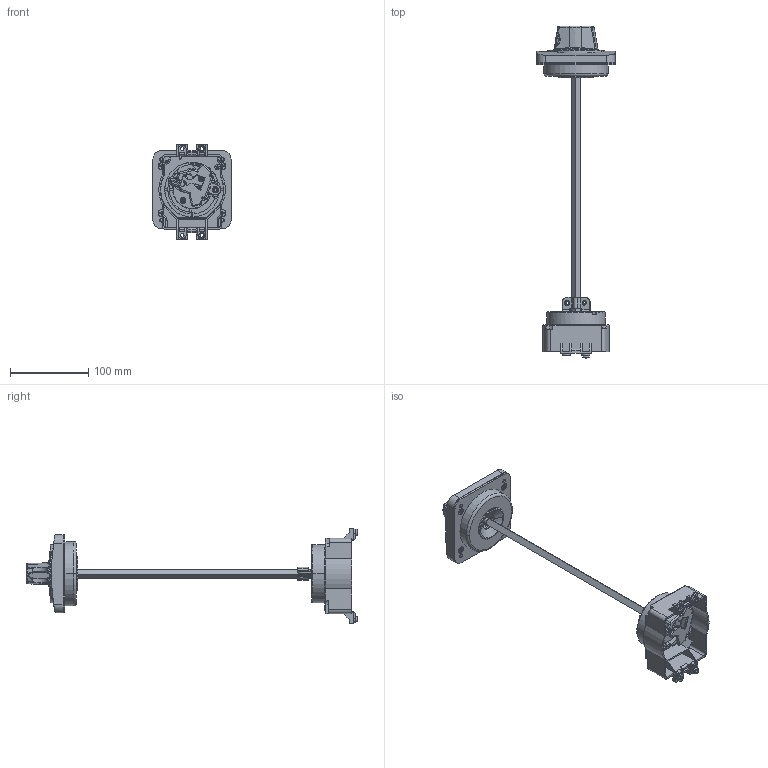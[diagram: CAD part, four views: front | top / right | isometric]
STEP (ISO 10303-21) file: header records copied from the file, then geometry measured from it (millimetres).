
FILE_DESCRIPTION((''),'2;1');
FILE_NAME('4818794000_ASM','2018-08-15T',('sesa105148'),('Schneider-Electric'),'PRO/ENGINEER BY PARAMETRIC TECHNOLOGY CORPORATION, 2015440','PRO/ENGINEER BY PARAMETRIC TECHNOLOGY CORPORATION, 2015440','');
FILE_SCHEMA(('CONFIG_CONTROL_DESIGN'));
Products named in the file (20): 48187028-01; 4818702601; 4818709901; 4818703501; 4818721701; 4818721601; 4818748301; 4818748401; 4818708601; 4818708301; 4818703701; 4818703601; 4818708401; 4818708201; 4818708701; 4818721501; 4818708101; 4818748501; 4818733201; 4818794000_ASM
Assembly tree (24 placements, depth 2):
  4818794000_ASM
    48187028-01
    4818702601
    4818709901
    4818703501
    4818721701
    4818721601
    4818748301
    4818748401
    4818708601
    4818708301
    4818703701
    4818703601
    4818708401
    4818708201
    4818708701
    4818721501
    4818708101  x2
    4818748501  x2
    4818733201  x4
Bounding box: 100 x 425.05 x 121 mm (x, y, z)
Volume: 241087.1 mm3; surface area: 225035.6 mm2
Topology: 24 solids, 30 shells, 3106 faces, 8421 edges, 5493 vertices
Faces by surface type: plane 1806, cylinder 941, cone 130, torus 102, bspline 83, sphere 32, extrusion 12
Entity records: 98621 total; most frequent: CARTESIAN_POINT 23124, ORIENTED_EDGE 16026, DIRECTION 15346, EDGE_CURVE 8015, VECTOR 5238, VERTEX_POINT 5227, LINE 5226, AXIS2_PLACEMENT_3D 5054
